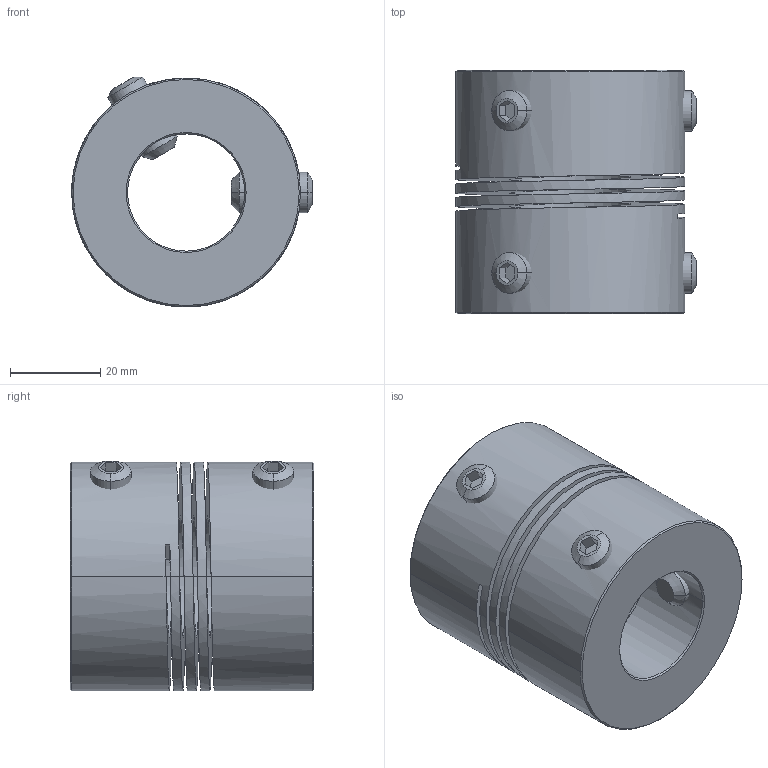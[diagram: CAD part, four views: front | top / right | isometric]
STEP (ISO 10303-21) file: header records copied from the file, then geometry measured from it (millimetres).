
FILE_DESCRIPTION((''),'2;1');
FILE_NAME('826_50_ASM','2006-12-06T',('Gary Melling'),(''),'PRO/ENGINEER BY PARAMETRIC TECHNOLOGY CORPORATION, 2006240','PRO/ENGINEER BY PARAMETRIC TECHNOLOGY CORPORATION, 2006240','');
FILE_SCHEMA(('CONFIG_CONTROL_DESIGN'));
Length unit declared in the file: millimetre
Products named in the file (3): 826_50; GS_8; 826_50_ASM
Assembly tree (5 placements, depth 2):
  826_50_ASM
    826_50
    GS_8  x4
Bounding box: 53.4 x 54 x 51.02 mm (x, y, z)
Volume: 76437.1 mm3; surface area: 29034.3 mm2
Topology: 5 solids, 5 shells, 106 faces, 264 edges, 168 vertices
Faces by surface type: plane 42, cylinder 38, cone 24, bspline 2
Entity records: 3420 total; most frequent: CARTESIAN_POINT 1837, ORIENTED_EDGE 336, DIRECTION 274, EDGE_CURVE 168, VERTEX_POINT 108, AXIS2_PLACEMENT_3D 99, VECTOR 76, LINE 76
